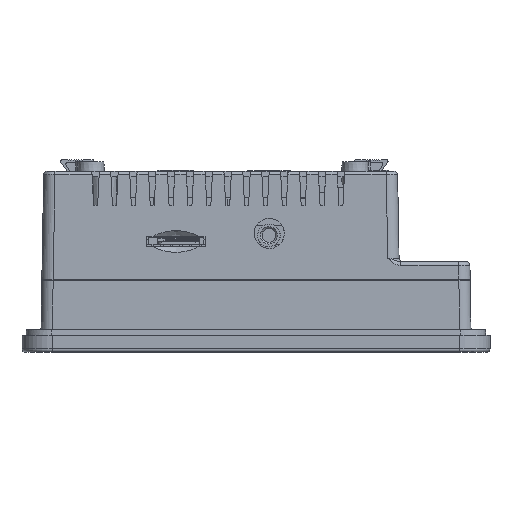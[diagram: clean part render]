
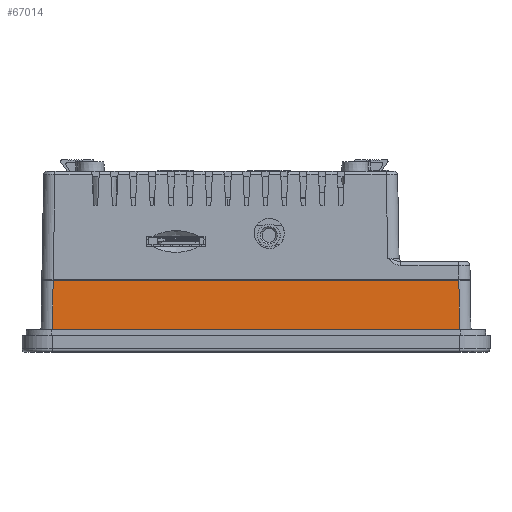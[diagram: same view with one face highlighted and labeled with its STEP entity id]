
A CAD part, left-side view. The second image highlights one B-rep face of the part: STEP entity #67014.
In plain terms, the highlighted planar face has unit normal (-1, 0, 0.018).
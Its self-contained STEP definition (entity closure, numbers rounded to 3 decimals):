
#7161 = DIRECTION ( 'NONE',  ( 0.017, 0.017, 1. ) ) ;
#9259 = DIRECTION ( 'NONE',  ( 0., -1., 0. ) ) ;
#10422 = ORIENTED_EDGE ( 'NONE', *, *, #106353, .T. ) ;
#13316 = ORIENTED_EDGE ( 'NONE', *, *, #189821, .F. ) ;
#21390 = EDGE_CURVE ( 'NONE', #161552, #220064, #222805, .T. ) ;
#29119 = CARTESIAN_POINT ( 'NONE',  ( -88.501, 54.001, -43.552 ) ) ;
#54465 = EDGE_CURVE ( 'NONE', #220064, #79744, #76891, .T. ) ;
#54820 = VERTEX_POINT ( 'NONE', #57419 ) ;
#57419 = CARTESIAN_POINT ( 'NONE',  ( -88.247, -53.747, -29. ) ) ;
#60846 = CARTESIAN_POINT ( 'NONE',  ( -88.5, -53.983, -43.496 ) ) ;
#67014 = ADVANCED_FACE ( 'NONE', ( #192693 ), #194172, .T. ) ;
#71297 = VECTOR ( 'NONE', #136182, 1000. ) ;
#76891 = LINE ( 'NONE', #100430, #71297 ) ;
#79744 = VERTEX_POINT ( 'NONE', #225683 ) ;
#83747 = VERTEX_POINT ( 'NONE', #178283 ) ;
#87470 = DIRECTION ( 'NONE',  ( -1., 0., 0.017 ) ) ;
#100430 = CARTESIAN_POINT ( 'NONE',  ( -88.5, 57.026, -43.5 ) ) ;
#106353 = EDGE_CURVE ( 'NONE', #83747, #54820, #201346, .T. ) ;
#106696 = VECTOR ( 'NONE', #7161, 1000. ) ;
#114473 = CARTESIAN_POINT ( 'NONE',  ( -88.247, 57., -29. ) ) ;
#114611 = CARTESIAN_POINT ( 'NONE',  ( -88.5, -53.948, -43.5 ) ) ;
#128089 = VECTOR ( 'NONE', #171732, 1000. ) ;
#136182 = DIRECTION ( 'NONE',  ( 0., -1., 0. ) ) ;
#137298 = CARTESIAN_POINT ( 'NONE',  ( -88.247, 53.747, -29. ) ) ;
#139871 = ORIENTED_EDGE ( 'NONE', *, *, #193861, .F. ) ;
#141292 = ORIENTED_EDGE ( 'NONE', *, *, #54465, .T. ) ;
#157504 = CARTESIAN_POINT ( 'NONE',  ( -88.5, 54., -43.5 ) ) ;
#160659 = LINE ( 'NONE', #114473, #202355 ) ;
#161552 = VERTEX_POINT ( 'NONE', #137298 ) ;
#167591 = CARTESIAN_POINT ( 'NONE',  ( -88.5, -54., -43.487 ) ) ;
#171732 = DIRECTION ( 'NONE',  ( -0.017, 0.017, -1. ) ) ;
#178283 = CARTESIAN_POINT ( 'NONE',  ( -88.5, -54., -43.487 ) ) ;
#189821 = EDGE_CURVE ( 'NONE', #161552, #54820, #160659, .T. ) ;
#191152 = EDGE_LOOP ( 'NONE', ( #206717, #141292, #139871, #10422, #13316 ) ) ;
#192693 = FACE_OUTER_BOUND ( 'NONE', #191152, .T. ) ;
#193861 = EDGE_CURVE ( 'NONE', #83747, #79744, #207629, .T. ) ;
#194172 = PLANE ( 'NONE',  #212779 ) ;
#201346 = LINE ( 'NONE', #220571, #106696 ) ;
#202355 = VECTOR ( 'NONE', #9259, 1000. ) ;
#206717 = ORIENTED_EDGE ( 'NONE', *, *, #21390, .T. ) ;
#207629 =( BOUNDED_CURVE ( )  B_SPLINE_CURVE ( 3, ( #167591, #60846, #221253, #114611 ),
 .UNSPECIFIED., .F., .F. ) 
 B_SPLINE_CURVE_WITH_KNOTS ( ( 4, 4 ),
 ( 3.124, 3.141 ),
 .UNSPECIFIED. ) 
 CURVE ( )  GEOMETRIC_REPRESENTATION_ITEM ( )  RATIONAL_B_SPLINE_CURVE ( ( 1., 1., 1., 1. ) ) 
 REPRESENTATION_ITEM ( '' )  );
#212047 = DIRECTION ( 'NONE',  ( 0.017, 0., 1. ) ) ;
#212779 = AXIS2_PLACEMENT_3D ( 'NONE', #228399, #87470, #212047 ) ;
#220064 = VERTEX_POINT ( 'NONE', #157504 ) ;
#220571 = CARTESIAN_POINT ( 'NONE',  ( -88.466, -53.967, -41.564 ) ) ;
#221253 = CARTESIAN_POINT ( 'NONE',  ( -88.5, -53.965, -43.5 ) ) ;
#222805 = LINE ( 'NONE', #29119, #128089 ) ;
#225683 = CARTESIAN_POINT ( 'NONE',  ( -88.5, -53.948, -43.5 ) ) ;
#228399 = CARTESIAN_POINT ( 'NONE',  ( -88.5, 57., -43.5 ) ) ;
